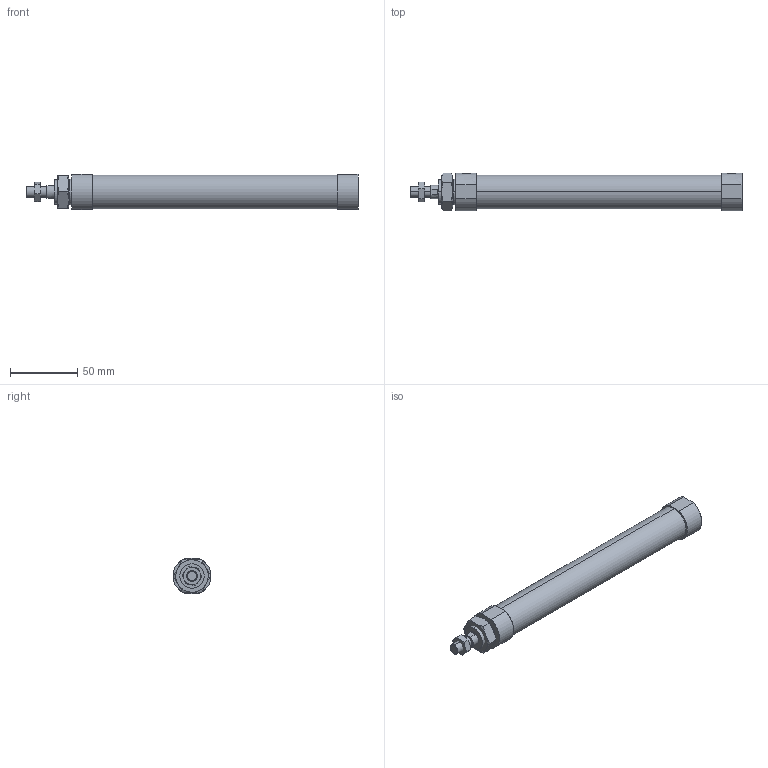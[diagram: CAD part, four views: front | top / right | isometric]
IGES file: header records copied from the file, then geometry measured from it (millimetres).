
Start section: SolidWorks IGES file using analytic representation for surfaces
Global section: file name: C:\Users\Toshiba\Desktop\JGND2-20-150-N.IGS; native system: SolidWorks 2014; preprocessor: SolidWorks 2014; author: Toshiba; date: 160804.103341; units: millimetre
Bounding box: 246 x 28 x 26 mm (x, y, z)
Surface area: 22499.9 mm2 (no closed solid volume)
Topology: 0 solids, 0 shells, 84 faces, 1468 edges, 1468 vertices
Faces by surface type: bspline 58, revolution 26
